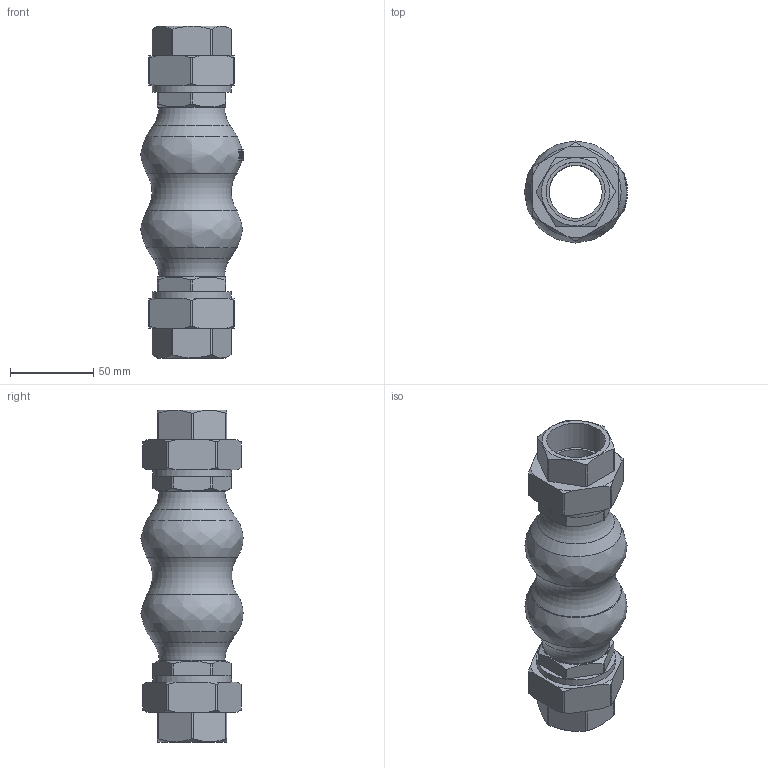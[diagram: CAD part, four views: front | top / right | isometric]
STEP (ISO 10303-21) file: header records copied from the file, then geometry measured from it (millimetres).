
FILE_DESCRIPTION(('STEP AP214'), '1');
FILE_NAME('CR-E17-T Êîìïåíñàòîð ðåçèíîâûé DN.ru Äó32 Ðó10-16', '2026-02-18T04:55:00', ('DN.RU'), (''), 'C3D Converter', 'C3D Toolkit', '');
FILE_SCHEMA(('AUTOMOTIVE_DESIGN { 1 0 10303 214 3 1 1}'));
Length unit declared in the file: millimetre
Products named in the file (1): CR-E17-T
Bounding box: 61.96 x 61.5 x 200 mm (x, y, z)
Volume: 233057.2 mm3; surface area: 58695.9 mm2
Topology: 1 solids, 1 shells, 199 faces, 534 edges, 356 vertices
Faces by surface type: plane 87, cylinder 41, cone 34, bspline 32, torus 5
Full cylindrical faces by diameter (mm): 32 x1, 35.59 x2, 47.59 x2
Entity records: 16578 total; most frequent: CARTESIAN_POINT 10494, ORIENTED_EDGE 1024, DIRECTION 692, EDGE_CURVE 512, VERTEX_POINT 356, AXIS2_PLACEMENT_3D 256, B_SPLINE_CURVE_WITH_KNOTS 244, EDGE_LOOP 242
